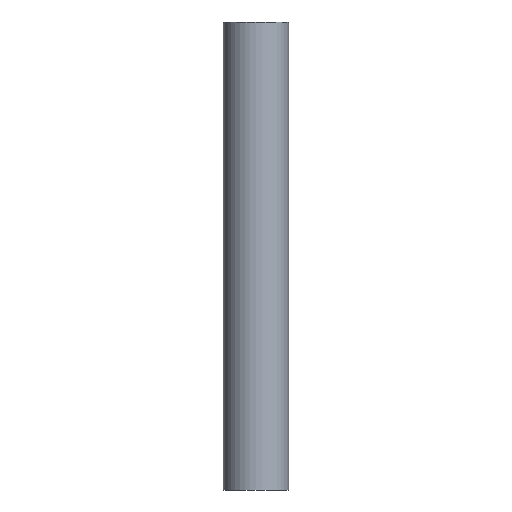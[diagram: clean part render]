
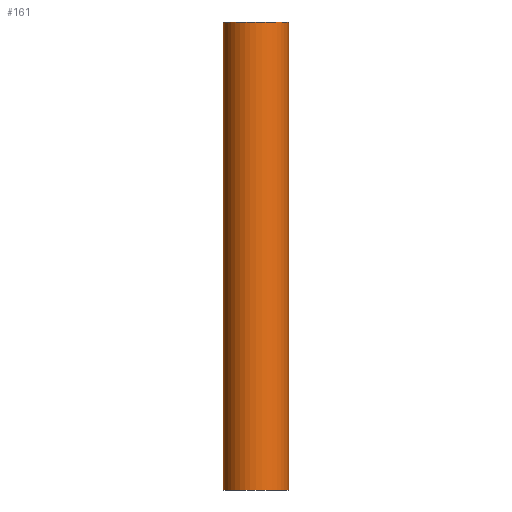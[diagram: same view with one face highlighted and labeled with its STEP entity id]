
A CAD part, front view. The second image highlights one B-rep face of the part: STEP entity #161.
In plain terms, the highlighted cylindrical face has radius 16 mm (diameter 32 mm), a partial arc.
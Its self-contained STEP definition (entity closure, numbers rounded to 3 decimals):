
#9 = CARTESIAN_POINT ( 'NONE',  ( -16., 0., -115. ) ) ;
#14 = LINE ( 'NONE', #131, #205 ) ;
#15 = VERTEX_POINT ( 'NONE', #27 ) ;
#16 = DIRECTION ( 'NONE',  ( 1., 0., 0. ) ) ;
#18 = LINE ( 'NONE', #70, #192 ) ;
#23 = AXIS2_PLACEMENT_3D ( 'NONE', #241, #68, #16 ) ;
#26 = AXIS2_PLACEMENT_3D ( 'NONE', #143, #155, #184 ) ;
#27 = CARTESIAN_POINT ( 'NONE',  ( 16., 0., 115. ) ) ;
#41 = CIRCLE ( 'NONE', #26, 16. ) ;
#49 = ORIENTED_EDGE ( 'NONE', *, *, #166, .T. ) ;
#63 = DIRECTION ( 'NONE',  ( 0., 0., 1. ) ) ;
#68 = DIRECTION ( 'NONE',  ( 0., 0., 1. ) ) ;
#70 = CARTESIAN_POINT ( 'NONE',  ( 16., 0., -115. ) ) ;
#72 = ORIENTED_EDGE ( 'NONE', *, *, #134, .T. ) ;
#80 = EDGE_CURVE ( 'NONE', #206, #130, #197, .T. ) ;
#98 = DIRECTION ( 'NONE',  ( 0., 0., -1. ) ) ;
#109 = EDGE_CURVE ( 'NONE', #130, #133, #14, .T. ) ;
#125 = CARTESIAN_POINT ( 'NONE',  ( -16., 0., 115. ) ) ;
#130 = VERTEX_POINT ( 'NONE', #9 ) ;
#131 = CARTESIAN_POINT ( 'NONE',  ( -16., 0., -115. ) ) ;
#133 = VERTEX_POINT ( 'NONE', #125 ) ;
#134 = EDGE_CURVE ( 'NONE', #15, #133, #41, .T. ) ;
#140 = ORIENTED_EDGE ( 'NONE', *, *, #109, .F. ) ;
#142 = DIRECTION ( 'NONE',  ( 0., 0., 1. ) ) ;
#143 = CARTESIAN_POINT ( 'NONE',  ( 0., 0., 115. ) ) ;
#147 = ORIENTED_EDGE ( 'NONE', *, *, #80, .F. ) ;
#152 = DIRECTION ( 'NONE',  ( -1., 0., 0. ) ) ;
#154 = AXIS2_PLACEMENT_3D ( 'NONE', #209, #98, #152 ) ;
#155 = DIRECTION ( 'NONE',  ( 0., 0., -1. ) ) ;
#160 = EDGE_LOOP ( 'NONE', ( #140, #147, #49, #72 ) ) ;
#161 = ADVANCED_FACE ( 'NONE', ( #174 ), #207, .T. ) ;
#166 = EDGE_CURVE ( 'NONE', #206, #15, #18, .T. ) ;
#174 = FACE_OUTER_BOUND ( 'NONE', #160, .T. ) ;
#184 = DIRECTION ( 'NONE',  ( -1., 0., 0. ) ) ;
#192 = VECTOR ( 'NONE', #142, 1000. ) ;
#197 = CIRCLE ( 'NONE', #154, 16. ) ;
#205 = VECTOR ( 'NONE', #63, 1000. ) ;
#206 = VERTEX_POINT ( 'NONE', #239 ) ;
#207 = CYLINDRICAL_SURFACE ( 'NONE', #23, 16. ) ;
#209 = CARTESIAN_POINT ( 'NONE',  ( 0., 0., -115. ) ) ;
#239 = CARTESIAN_POINT ( 'NONE',  ( 16., 0., -115. ) ) ;
#241 = CARTESIAN_POINT ( 'NONE',  ( 0., 0., -115. ) ) ;
